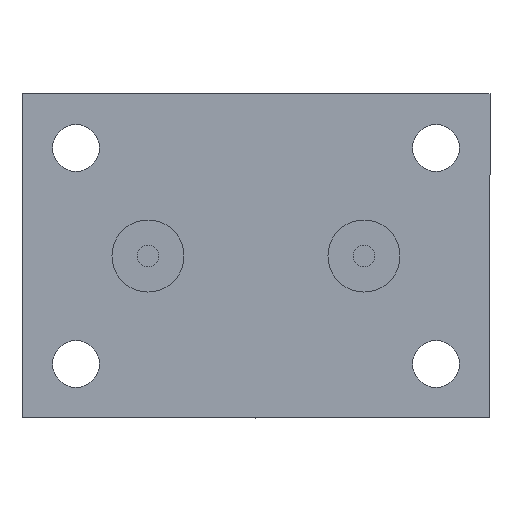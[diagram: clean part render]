
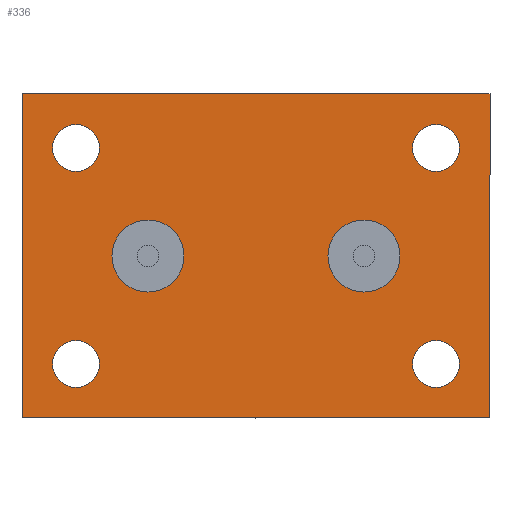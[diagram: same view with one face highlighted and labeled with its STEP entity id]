
A CAD part, front view. The second image highlights one B-rep face of the part: STEP entity #336.
In plain terms, the highlighted planar face has unit normal (0, -1, 0).
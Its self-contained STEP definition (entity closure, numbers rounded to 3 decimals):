
#10 = CARTESIAN_POINT ( 'NONE',  ( 15., 0., 5. ) ) ;
#12 = DIRECTION ( 'NONE',  ( 0., 0., -1. ) ) ;
#14 = EDGE_LOOP ( 'NONE', ( #1234, #1155, #217, #555 ) ) ;
#25 = CIRCLE ( 'NONE', #735, 3.25 ) ;
#26 = CARTESIAN_POINT ( 'NONE',  ( 25., 0., -18.25 ) ) ;
#30 = ORIENTED_EDGE ( 'NONE', *, *, #580, .F. ) ;
#34 = EDGE_LOOP ( 'NONE', ( #1307, #1320 ) ) ;
#54 = CARTESIAN_POINT ( 'NONE',  ( 25., 0., -11.75 ) ) ;
#57 = EDGE_CURVE ( 'NONE', #543, #550, #1080, .T. ) ;
#69 = FACE_BOUND ( 'NONE', #1068, .T. ) ;
#76 = EDGE_CURVE ( 'NONE', #459, #1380, #605, .T. ) ;
#84 = CARTESIAN_POINT ( 'NONE',  ( 15., 0., 0. ) ) ;
#87 = AXIS2_PLACEMENT_3D ( 'NONE', #263, #582, #565 ) ;
#88 = EDGE_LOOP ( 'NONE', ( #900, #293 ) ) ;
#106 = EDGE_LOOP ( 'NONE', ( #438, #1005 ) ) ;
#114 = CIRCLE ( 'NONE', #289, 3.25 ) ;
#127 = ORIENTED_EDGE ( 'NONE', *, *, #1226, .F. ) ;
#134 = DIRECTION ( 'NONE',  ( 0., 0., -1. ) ) ;
#156 = DIRECTION ( 'NONE',  ( 0., 1., 0. ) ) ;
#158 = DIRECTION ( 'NONE',  ( 0., -1., 0. ) ) ;
#196 = CARTESIAN_POINT ( 'NONE',  ( -32.5, 0., 22.5 ) ) ;
#197 = CARTESIAN_POINT ( 'NONE',  ( 32.5, 0., 22.5 ) ) ;
#212 = VERTEX_POINT ( 'NONE', #1197 ) ;
#217 = ORIENTED_EDGE ( 'NONE', *, *, #1185, .F. ) ;
#240 = CARTESIAN_POINT ( 'NONE',  ( 32.5, 0., -22.5 ) ) ;
#252 = EDGE_CURVE ( 'NONE', #670, #947, #416, .T. ) ;
#259 = EDGE_CURVE ( 'NONE', #550, #543, #1390, .T. ) ;
#263 = CARTESIAN_POINT ( 'NONE',  ( 25., 0., 15. ) ) ;
#267 = CARTESIAN_POINT ( 'NONE',  ( 15., 0., -5. ) ) ;
#273 = CARTESIAN_POINT ( 'NONE',  ( 25., 0., 18.25 ) ) ;
#274 = DIRECTION ( 'NONE',  ( 0., 0., 1. ) ) ;
#275 = EDGE_LOOP ( 'NONE', ( #1351, #1037 ) ) ;
#283 = CARTESIAN_POINT ( 'NONE',  ( -32.5, 0., -22.5 ) ) ;
#285 = PLANE ( 'NONE',  #949 ) ;
#289 = AXIS2_PLACEMENT_3D ( 'NONE', #1035, #380, #1240 ) ;
#293 = ORIENTED_EDGE ( 'NONE', *, *, #1317, .F. ) ;
#307 = DIRECTION ( 'NONE',  ( 0., -1., 0. ) ) ;
#322 = CARTESIAN_POINT ( 'NONE',  ( -15., 0., -5. ) ) ;
#324 = DIRECTION ( 'NONE',  ( 0., -1., 0. ) ) ;
#336 = ADVANCED_FACE ( 'NONE', ( #502, #69, #1013, #1195, #1211, #348, #726 ), #285, .F. ) ;
#339 = AXIS2_PLACEMENT_3D ( 'NONE', #795, #571, #134 ) ;
#348 = FACE_BOUND ( 'NONE', #106, .T. ) ;
#352 = CARTESIAN_POINT ( 'NONE',  ( 25., 0., 15. ) ) ;
#357 = CARTESIAN_POINT ( 'NONE',  ( -15., 0., 0. ) ) ;
#380 = DIRECTION ( 'NONE',  ( 0., -1., 0. ) ) ;
#403 = VERTEX_POINT ( 'NONE', #54 ) ;
#404 = DIRECTION ( 'NONE',  ( -1., 0., 0. ) ) ;
#416 = CIRCLE ( 'NONE', #437, 3.25 ) ;
#418 = AXIS2_PLACEMENT_3D ( 'NONE', #357, #1329, #785 ) ;
#437 = AXIS2_PLACEMENT_3D ( 'NONE', #352, #1014, #1107 ) ;
#438 = ORIENTED_EDGE ( 'NONE', *, *, #259, .F. ) ;
#459 = VERTEX_POINT ( 'NONE', #761 ) ;
#490 = ORIENTED_EDGE ( 'NONE', *, *, #506, .F. ) ;
#496 = DIRECTION ( 'NONE',  ( 0., 0., -1. ) ) ;
#500 = DIRECTION ( 'NONE',  ( 0., 0., 1. ) ) ;
#501 = DIRECTION ( 'NONE',  ( 0., -1., 0. ) ) ;
#502 = FACE_BOUND ( 'NONE', #275, .T. ) ;
#506 = EDGE_CURVE ( 'NONE', #650, #810, #1330, .T. ) ;
#529 = LINE ( 'NONE', #283, #1346 ) ;
#543 = VERTEX_POINT ( 'NONE', #755 ) ;
#550 = VERTEX_POINT ( 'NONE', #322 ) ;
#555 = ORIENTED_EDGE ( 'NONE', *, *, #1324, .F. ) ;
#565 = DIRECTION ( 'NONE',  ( 0., 0., -1. ) ) ;
#568 = DIRECTION ( 'NONE',  ( 0., -1., 0. ) ) ;
#571 = DIRECTION ( 'NONE',  ( 0., -1., 0. ) ) ;
#576 = CARTESIAN_POINT ( 'NONE',  ( -25., 0., 11.75 ) ) ;
#580 = EDGE_CURVE ( 'NONE', #810, #650, #1059, .T. ) ;
#582 = DIRECTION ( 'NONE',  ( 0., -1., 0. ) ) ;
#593 = VECTOR ( 'NONE', #1194, 1000. ) ;
#598 = CARTESIAN_POINT ( 'NONE',  ( -32.5, 0., -22.5 ) ) ;
#605 = LINE ( 'NONE', #196, #676 ) ;
#606 = VERTEX_POINT ( 'NONE', #1073 ) ;
#611 = CARTESIAN_POINT ( 'NONE',  ( -32.5, 0., -22.5 ) ) ;
#619 = DIRECTION ( 'NONE',  ( 0., 0., -1. ) ) ;
#624 = DIRECTION ( 'NONE',  ( 0., 0., -1. ) ) ;
#637 = EDGE_CURVE ( 'NONE', #1380, #1003, #1159, .T. ) ;
#650 = VERTEX_POINT ( 'NONE', #10 ) ;
#661 = CIRCLE ( 'NONE', #1333, 3.25 ) ;
#669 = CARTESIAN_POINT ( 'NONE',  ( 25., 0., 11.75 ) ) ;
#670 = VERTEX_POINT ( 'NONE', #669 ) ;
#676 = VECTOR ( 'NONE', #1190, 1000. ) ;
#689 = CARTESIAN_POINT ( 'NONE',  ( 25., 0., -15. ) ) ;
#715 = VERTEX_POINT ( 'NONE', #990 ) ;
#719 = DIRECTION ( 'NONE',  ( 0., 0., -1. ) ) ;
#722 = EDGE_LOOP ( 'NONE', ( #30, #490 ) ) ;
#726 = FACE_OUTER_BOUND ( 'NONE', #14, .T. ) ;
#735 = AXIS2_PLACEMENT_3D ( 'NONE', #1125, #158, #719 ) ;
#737 = EDGE_CURVE ( 'NONE', #1128, #715, #1145, .T. ) ;
#743 = EDGE_CURVE ( 'NONE', #947, #670, #1389, .T. ) ;
#755 = CARTESIAN_POINT ( 'NONE',  ( -15., 0., 5. ) ) ;
#761 = CARTESIAN_POINT ( 'NONE',  ( -32.5, 0., 22.5 ) ) ;
#785 = DIRECTION ( 'NONE',  ( 0., 0., -1. ) ) ;
#795 = CARTESIAN_POINT ( 'NONE',  ( -25., 0., 15. ) ) ;
#810 = VERTEX_POINT ( 'NONE', #267 ) ;
#826 = CARTESIAN_POINT ( 'NONE',  ( -25., 0., -15. ) ) ;
#828 = VERTEX_POINT ( 'NONE', #26 ) ;
#841 = CARTESIAN_POINT ( 'NONE',  ( -15., 0., 0. ) ) ;
#857 = DIRECTION ( 'NONE',  ( 0., 0., -1. ) ) ;
#866 = CARTESIAN_POINT ( 'NONE',  ( 15., 0., 0. ) ) ;
#884 = VECTOR ( 'NONE', #404, 1000. ) ;
#887 = AXIS2_PLACEMENT_3D ( 'NONE', #1069, #307, #619 ) ;
#900 = ORIENTED_EDGE ( 'NONE', *, *, #960, .F. ) ;
#912 = AXIS2_PLACEMENT_3D ( 'NONE', #84, #1083, #1174 ) ;
#946 = EDGE_CURVE ( 'NONE', #212, #606, #25, .T. ) ;
#947 = VERTEX_POINT ( 'NONE', #273 ) ;
#949 = AXIS2_PLACEMENT_3D ( 'NONE', #1153, #156, #274 ) ;
#960 = EDGE_CURVE ( 'NONE', #828, #403, #1071, .T. ) ;
#966 = DIRECTION ( 'NONE',  ( 0., -1., 0. ) ) ;
#990 = CARTESIAN_POINT ( 'NONE',  ( -25., 0., 18.25 ) ) ;
#1003 = VERTEX_POINT ( 'NONE', #240 ) ;
#1005 = ORIENTED_EDGE ( 'NONE', *, *, #57, .F. ) ;
#1013 = FACE_BOUND ( 'NONE', #88, .T. ) ;
#1014 = DIRECTION ( 'NONE',  ( 0., -1., 0. ) ) ;
#1035 = CARTESIAN_POINT ( 'NONE',  ( -25., 0., 15. ) ) ;
#1037 = ORIENTED_EDGE ( 'NONE', *, *, #1138, .F. ) ;
#1040 = LINE ( 'NONE', #611, #884 ) ;
#1059 = CIRCLE ( 'NONE', #912, 5. ) ;
#1068 = EDGE_LOOP ( 'NONE', ( #1141, #127 ) ) ;
#1069 = CARTESIAN_POINT ( 'NONE',  ( 25., 0., -15. ) ) ;
#1070 = CIRCLE ( 'NONE', #887, 3.25 ) ;
#1071 = CIRCLE ( 'NONE', #1269, 3.25 ) ;
#1073 = CARTESIAN_POINT ( 'NONE',  ( -25., 0., -11.75 ) ) ;
#1080 = CIRCLE ( 'NONE', #1358, 5. ) ;
#1083 = DIRECTION ( 'NONE',  ( 0., -1., 0. ) ) ;
#1107 = DIRECTION ( 'NONE',  ( 0., 0., -1. ) ) ;
#1125 = CARTESIAN_POINT ( 'NONE',  ( -25., 0., -15. ) ) ;
#1128 = VERTEX_POINT ( 'NONE', #576 ) ;
#1138 = EDGE_CURVE ( 'NONE', #715, #1128, #114, .T. ) ;
#1141 = ORIENTED_EDGE ( 'NONE', *, *, #946, .F. ) ;
#1145 = CIRCLE ( 'NONE', #339, 3.25 ) ;
#1153 = CARTESIAN_POINT ( 'NONE',  ( 0., 0., 0. ) ) ;
#1155 = ORIENTED_EDGE ( 'NONE', *, *, #76, .F. ) ;
#1159 = LINE ( 'NONE', #1188, #593 ) ;
#1174 = DIRECTION ( 'NONE',  ( 0., 0., -1. ) ) ;
#1185 = EDGE_CURVE ( 'NONE', #1245, #459, #529, .T. ) ;
#1188 = CARTESIAN_POINT ( 'NONE',  ( 32.5, 0., -22.5 ) ) ;
#1190 = DIRECTION ( 'NONE',  ( 1., 0., 0. ) ) ;
#1191 = AXIS2_PLACEMENT_3D ( 'NONE', #866, #966, #857 ) ;
#1194 = DIRECTION ( 'NONE',  ( 0., 0., -1. ) ) ;
#1195 = FACE_BOUND ( 'NONE', #34, .T. ) ;
#1197 = CARTESIAN_POINT ( 'NONE',  ( -25., 0., -18.25 ) ) ;
#1211 = FACE_BOUND ( 'NONE', #722, .T. ) ;
#1226 = EDGE_CURVE ( 'NONE', #606, #212, #661, .T. ) ;
#1234 = ORIENTED_EDGE ( 'NONE', *, *, #637, .F. ) ;
#1240 = DIRECTION ( 'NONE',  ( 0., 0., -1. ) ) ;
#1245 = VERTEX_POINT ( 'NONE', #598 ) ;
#1269 = AXIS2_PLACEMENT_3D ( 'NONE', #689, #568, #12 ) ;
#1307 = ORIENTED_EDGE ( 'NONE', *, *, #252, .F. ) ;
#1317 = EDGE_CURVE ( 'NONE', #403, #828, #1070, .T. ) ;
#1320 = ORIENTED_EDGE ( 'NONE', *, *, #743, .F. ) ;
#1324 = EDGE_CURVE ( 'NONE', #1003, #1245, #1040, .T. ) ;
#1329 = DIRECTION ( 'NONE',  ( 0., -1., 0. ) ) ;
#1330 = CIRCLE ( 'NONE', #1191, 5. ) ;
#1333 = AXIS2_PLACEMENT_3D ( 'NONE', #826, #501, #496 ) ;
#1346 = VECTOR ( 'NONE', #500, 1000. ) ;
#1351 = ORIENTED_EDGE ( 'NONE', *, *, #737, .F. ) ;
#1358 = AXIS2_PLACEMENT_3D ( 'NONE', #841, #324, #624 ) ;
#1380 = VERTEX_POINT ( 'NONE', #197 ) ;
#1389 = CIRCLE ( 'NONE', #87, 3.25 ) ;
#1390 = CIRCLE ( 'NONE', #418, 5. ) ;
